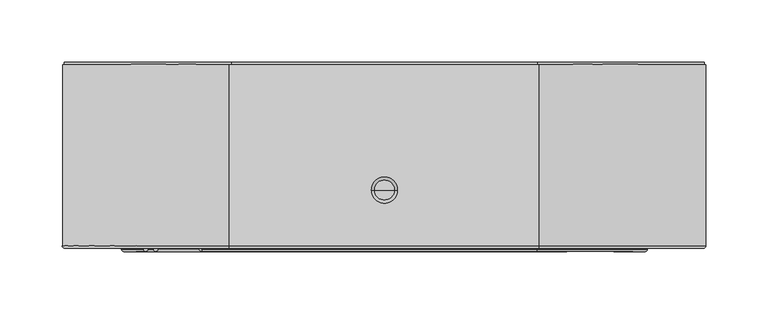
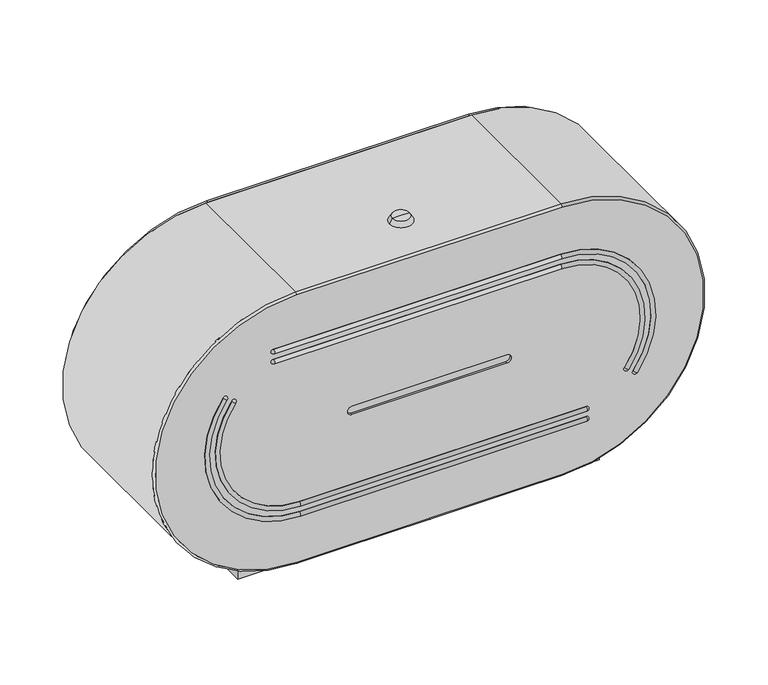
"""IFC4 building model written with IfcOpenShell, lengths in millimetres: proxy geometry, Toilet Roll Dispenser_Metlam_Double_Cabinet_Rounded : 520w x 150d x 280h (ML841DBL)."""

from ifc_helpers import new_model, si_unit, point, frame, origin, place, context, project, spatial, polyline, circle_curve, ellipse_curve, trimmed, source, transform, mapped, element, save
from ifc_brep_helpers import plane_surface, cylinder_surface, revolved_surface, advanced_brep


def specialty_equipment_6cb7c434(model_context):
    return source(origin(), model_context, "Body", "AdvancedBrep", [
        advanced_brep(
        [(-170.0, -132.0, 605.0), (170.0, -132.0, 605.0), (170.0, -2.0, 605.0), (168.0, -2.0, 605.0), (168.0, -130.0, 605.0), (-168.0, -130.0, 605.0), (-168.0, -2.0, 605.0), (-170.0, -2.0, 605.0), (-170.0, 0.0, 585.0), (170.0, 0.0, 585.0), (170.0, -132.0, 585.0), (-170.0, -132.0, 585.0), (168.0, -130.0, 585.0), (168.0, -2.0, 585.0), (-168.0, -2.0, 585.0), (-168.0, -130.0, 585.0), (-170.0, -2.0, 603.4067736), (-170.0, 0.0, 603.4067736), (170.0, 0.0, 603.4399467), (170.0, -2.0, 603.4399467), (-123.1048507, 0.0, 865.0), (123.015397, 0.0, 865.0), (123.015397, -2.0, 865.0), (-123.1048507, -2.0, 865.0)],
        [
            (0, 1),
            (1, 2),
            (2, 3),
            (3, 4),
            (4, 5),
            (5, 6),
            (6, 7),
            (7, 0),
            (8, 9),
            (9, 10),
            (10, 11),
            (11, 8),
            (12, 13),
            (13, 14),
            (14, 15),
            (15, 12),
            (11, 0),
            (7, 16),
            (16, 17),
            (17, 8),
            (10, 1),
            (9, 18),
            (18, 19),
            (19, 2),
            (17, 20, circle_curve(frame((-123.1048507, 0.0, 730.0), z_axis=(0.0, 1.0, 0.0), x_axis=(1.0, 0.0, 0.0)), 135.0)),
            (20, 21),
            (21, 18, circle_curve(frame((123.015397, 0.0, 730.0), z_axis=(0.0, 1.0, 0.0), x_axis=(1.0, 0.0, 0.0)), 135.0)),
            (4, 12),
            (15, 5),
            (14, 6),
            (13, 3),
            (19, 22, circle_curve(frame((123.015397, -2.0, 730.0), z_axis=(0.0, -1.0, 0.0), x_axis=(1.0, 0.0, 0.0)), 135.0)),
            (22, 23),
            (23, 16, circle_curve(frame((-123.1048507, -2.0, 730.0), z_axis=(0.0, -1.0, 0.0), x_axis=(1.0, 0.0, 0.0)), 135.0)),
            (22, 21),
            (20, 23),
        ],
        [
            plane_surface(frame((-170.0, -132.0, 605.0), z_axis=(0.0, 0.0, 1.0), x_axis=(0.0, -1.0, 0.0))),
            plane_surface(frame((-170.0, -132.0, 585.0), z_axis=(0.0, 0.0, -1.0), x_axis=(0.0, 1.0, 0.0))),
            plane_surface(frame((-170.0, 0.0, 605.0), z_axis=(-1.0, 0.0, 0.0), x_axis=(0.0, 0.0, -1.0))),
            plane_surface(frame((-170.0, -132.0, 605.0), z_axis=(0.0, -1.0, 0.0), x_axis=(0.0, 0.0, -1.0))),
            plane_surface(frame((170.0, -132.0, 605.0), z_axis=(1.0, 0.0, 0.0), x_axis=(0.0, 0.0, -1.0))),
            plane_surface(frame((170.0, 0.0, 605.0), z_axis=(0.0, 1.0, 0.0), x_axis=(0.0, 0.0, -1.0))),
            plane_surface(frame((168.0, -130.0, 605.0), z_axis=(0.0, 1.0, 0.0), x_axis=(0.0, 0.0, -1.0))),
            plane_surface(frame((-168.0, -130.0, 605.0), z_axis=(1.0, 0.0, 0.0), x_axis=(0.0, 0.0, -1.0))),
            plane_surface(frame((-168.0, -2.0, 605.0), z_axis=(0.0, -1.0, 0.0), x_axis=(0.0, 0.0, -1.0))),
            plane_surface(frame((168.0, -2.0, 605.0), z_axis=(-1.0, 0.0, 0.0), x_axis=(0.0, 0.0, -1.0))),
            plane_surface(frame((123.015397, -2.0, 865.0), z_axis=(0.0, 0.0, 1.0), x_axis=(0.0, 1.0, 0.0))),
            cylinder_surface(frame((-123.1048507, 0.0, 730.0), z_axis=(0.0, -1.0, 0.0), x_axis=(1.0, 0.0, 0.0)), 135.0),
            cylinder_surface(frame((123.015397, 0.0, 730.0), z_axis=(0.0, -1.0, 0.0), x_axis=(1.0, 0.0, 0.0)), 135.0),
        ],
        [
            (0, [[1, 2, 3, 4, 5, 6, 7, 8]]),
            (1, [[9, 10, 11, 12], [13, 14, 15, 16]]),
            (2, [[-12, 17, -8, 18, 19, 20]]),
            (3, [[-1, -17, -11, 21]]),
            (4, [[-10, 22, 23, 24, -2, -21]]),
            (5, [[-9, -20, 25, 26, 27, -22]]),
            (6, [[-5, 28, -16, 29]]),
            (7, [[30, -6, -29, -15]]),
            (8, [[-14, 31, -3, -24, 32, 33, 34, -18, -7, -30]]),
            (9, [[-4, -31, -13, -28]]),
            (10, [[-33, 35, -26, 36]]),
            (11, [[-36, -25, -19, -34]]),
            (12, [[-35, -32, -23, -27]]),
        ],
    ),
        advanced_brep(
        [(-125.0, -2.0, 595.0), (-125.0, -2.0, 865.0), (125.0, -2.0, 865.0), (125.0, -2.0, 595.0), (110.0, -2.0, 595.0), (110.0, -2.0, 597.0), (125.0, -2.0, 597.0), (125.0, -2.0, 863.0), (-125.0, -2.0, 863.0), (-125.0, -2.0, 597.0), (-110.0, -2.0, 597.0), (-110.0, -2.0, 595.0), (125.0, -148.0, 595.0), (0.7534227, -148.0, 595.0), (-125.0, -148.0, 595.0), (-110.0, -130.0, 595.0), (110.0, -130.0, 595.0), (-110.0, -130.0, 597.0), (110.0, -130.0, 597.0), (-125.0, -148.0, 597.0), (-1.8409431, -148.0, 597.0), (125.0, -148.0, 597.0), (-125.0, -148.0, 863.0), (125.0, -148.0, 863.0), (125.0, -148.0, 865.0), (-125.0, -148.0, 865.0), (0.7534227, -150.0, 597.0), (125.0, -150.0, 597.0), (125.0, -150.0, 863.0), (-125.0, -150.0, 863.0), (-125.0, -150.0, 597.0), (-1.8409431, -150.0, 597.0), (72.9688148, -150.0, 734.0), (72.9688148, -150.0, 726.0), (-73.0167453, -150.0, 726.0), (-73.0167453, -150.0, 734.0), (72.9688148, -148.0, 734.0), (-73.0167453, -148.0, 734.0), (-73.0167453, -148.0, 726.0), (72.9688148, -148.0, 726.0)],
        [
            (0, 1, circle_curve(frame((-125.0, -2.0, 730.0), z_axis=(0.0, 1.0, 0.0), x_axis=(1.0, 0.0, 0.0)), 135.0)),
            (1, 2),
            (2, 3, circle_curve(frame((125.0, -2.0, 730.0), z_axis=(0.0, 1.0, 0.0), x_axis=(1.0, 0.0, 0.0)), 135.0)),
            (3, 4),
            (4, 5),
            (5, 6),
            (6, 7, circle_curve(frame((125.0, -2.0, 730.0), z_axis=(0.0, -1.0, 0.0), x_axis=(1.0, 0.0, 0.0)), 133.0)),
            (7, 8),
            (8, 9, circle_curve(frame((-125.0, -2.0, 730.0), z_axis=(0.0, -1.0, 0.0), x_axis=(1.0, 0.0, 0.0)), 133.0)),
            (9, 10),
            (10, 11),
            (11, 0),
            (3, 12),
            (12, 13),
            (13, 14),
            (14, 0),
            (11, 15),
            (15, 16),
            (16, 4),
            (10, 17),
            (17, 15),
            (5, 18),
            (18, 17),
            (9, 19),
            (19, 20),
            (20, 21),
            (21, 6),
            (8, 22),
            (22, 19, circle_curve(frame((-125.0, -148.0, 730.0), z_axis=(0.0, -1.0, 0.0), x_axis=(1.0, 0.0, 0.0)), 133.0)),
            (7, 23),
            (23, 22),
            (21, 23, circle_curve(frame((125.0, -148.0, 730.0), z_axis=(0.0, -1.0, 0.0), x_axis=(1.0, 0.0, 0.0)), 133.0)),
            (16, 18),
            (2, 24),
            (24, 12, circle_curve(frame((125.0, -148.0, 730.0), z_axis=(0.0, 1.0, 0.0), x_axis=(1.0, 0.0, 0.0)), 135.0)),
            (1, 25),
            (25, 24),
            (14, 25, circle_curve(frame((-125.0, -148.0, 730.0), z_axis=(0.0, 1.0, 0.0), x_axis=(1.0, 0.0, 0.0)), 135.0)),
            (26, 27),
            (27, 28, circle_curve(frame((125.0, -150.0, 730.0), z_axis=(0.0, -1.0, 0.0), x_axis=(0.0, 0.0, -1.0)), 133.0)),
            (28, 29),
            (29, 30, circle_curve(frame((-125.0, -150.0, 730.0), z_axis=(0.0, -1.0, 0.0), x_axis=(0.0, 0.0, 1.0)), 133.0)),
            (30, 31),
            (31, 26),
            (32, 33, circle_curve(frame((72.9688148, -150.0, 730.0), z_axis=(0.0, 1.0, 0.0), x_axis=(1.0, 0.0, 0.0)), 4.0)),
            (33, 34),
            (34, 35, circle_curve(frame((-73.0167453, -150.0, 730.0), z_axis=(0.0, 1.0, 0.0), x_axis=(1.0, 0.0, 0.0)), 4.0)),
            (35, 32),
            (36, 37),
            (37, 38, circle_curve(frame((-73.0167453, -148.0, 730.0), z_axis=(0.0, -1.0, 0.0), x_axis=(1.0, 0.0, 0.0)), 4.0)),
            (38, 39),
            (39, 36, circle_curve(frame((72.9688148, -148.0, 730.0), z_axis=(0.0, -1.0, 0.0), x_axis=(1.0, 0.0, 0.0)), 4.0)),
            (32, 36),
            (39, 33),
            (38, 34),
            (37, 35),
            (26, 13, circle_curve(frame((0.7534227, -148.0, 597.0), z_axis=(1.0, 0.0, 0.0), x_axis=(0.0, 0.0, 1.0)), 2.0)),
            (12, 27, circle_curve(frame((125.0, -148.0, 597.0), z_axis=(-1.0, 0.0, 0.0), x_axis=(0.0, 0.0, 1.0)), 2.0)),
            (24, 28, circle_curve(frame((125.0, -148.0, 863.0), z_axis=(1.0, 0.0, 0.0), x_axis=(0.0, 0.0, -1.0)), 2.0)),
            (25, 29, circle_curve(frame((-125.0, -148.0, 863.0), z_axis=(1.0, 0.0, 0.0), x_axis=(0.0, 0.0, -1.0)), 2.0)),
            (14, 30, circle_curve(frame((-125.0, -148.0, 597.0), z_axis=(-1.0, 0.0, 0.0), x_axis=(0.0, 0.0, 1.0)), 2.0)),
        ],
        [
            plane_surface(frame((-123.1048507, -2.0, 595.0), z_axis=(0.0, 1.0, 0.0), x_axis=(-1.0, 0.0, 0.0))),
            plane_surface(frame((-125.0, -148.0, 595.0), z_axis=(0.0, 0.0, -1.0), x_axis=(0.0, 1.0, 0.0))),
            plane_surface(frame((-110.0, -148.0, 595.0), z_axis=(1.0, 0.0, 0.0), x_axis=(0.0, 1.0, 0.0))),
            plane_surface(frame((-110.0, -148.0, 597.0), z_axis=(0.0, 0.0, 1.0), x_axis=(0.0, 1.0, 0.0))),
            revolved_surface(polyline([(8.0, -2.0, 730.0), (8.0, -148.0, 730.0)]), (-125.0, -2.0, 730.0), (0.0, 1.0, 0.0)),
            plane_surface(frame((-125.0, -148.0, 863.0), z_axis=(0.0, 0.0, -1.0), x_axis=(0.0, 1.0, 0.0))),
            revolved_surface(polyline([(258.0, -2.0, 730.0), (258.0, -148.0, 730.0)]), (125.0, -2.0, 730.0), (0.0, 1.0, 0.0)),
            plane_surface(frame((110.0, -148.0, 597.0), z_axis=(-1.0, 0.0, 0.0), x_axis=(0.0, 1.0, 0.0))),
            cylinder_surface(frame((125.0, -2.0, 730.0), z_axis=(0.0, -1.0, 0.0), x_axis=(1.0, 0.0, 0.0)), 135.0),
            plane_surface(frame((125.0, -148.0, 865.0), z_axis=(0.0, 0.0, 1.0), x_axis=(0.0, 1.0, 0.0))),
            cylinder_surface(frame((-125.0, -2.0, 730.0), z_axis=(0.0, -1.0, 0.0), x_axis=(1.0, 0.0, 0.0)), 135.0),
            plane_surface(frame((-110.0, -130.0, 595.0), z_axis=(0.0, 1.0, 0.0), x_axis=(0.0, 0.0, 1.0))),
            plane_surface(frame((8.0, -150.0, 730.0), z_axis=(0.0, -1.0, 0.0), x_axis=(0.0, 0.0, 1.0))),
            plane_surface(frame((8.0, -148.0, 730.0), z_axis=(0.0, 1.0, 0.0), x_axis=(0.0, 0.0, -1.0))),
            revolved_surface(polyline([(76.9688148, -148.0, 730.0), (76.9688148, -150.0, 730.0)]), (72.9688148, -26.179526, 730.0), (0.0, 1.0, 0.0)),
            plane_surface(frame((72.9688148, -150.0, 726.0), z_axis=(0.0, 0.0, 1.0), x_axis=(0.0, 1.0, 0.0))),
            revolved_surface(polyline([(-69.0167453, -148.0, 730.0), (-69.0167453, -150.0, 730.0)]), (-73.0167453, -26.179526, 730.0), (0.0, 1.0, 0.0)),
            plane_surface(frame((-73.0167453, -150.0, 734.0), z_axis=(0.0, 0.0, -1.0), x_axis=(0.0, 1.0, 0.0))),
            cylinder_surface(frame((0.7534227, -148.0, 597.0), z_axis=(-1.0, 0.0, 0.0), x_axis=(0.0, 0.0, 1.0)), 2.0),
            revolved_surface(trimmed(ellipse_curve(frame((125.0, -148.0, 597.0), z_axis=(-1.0, 0.0, 0.0), x_axis=(0.0, 0.0, 1.0)), 2.0, 2.0), [point((125.0, -148.0, 595.0))], [point((125.0, -150.0, 597.0))], True, "CARTESIAN"), (125.0, -12.0, 730.0), (0.0, -1.0, 0.0)),
            cylinder_surface(frame((125.0, -148.0, 863.0), z_axis=(1.0, 0.0, 0.0), x_axis=(0.0, 0.0, -1.0)), 2.0),
            revolved_surface(trimmed(ellipse_curve(frame((-125.0, -148.0, 863.0), z_axis=(1.0, 0.0, 0.0), x_axis=(0.0, 0.0, -1.0)), 2.0, 2.0), [point((-125.0, -148.0, 865.0))], [point((-125.0, -150.0, 863.0))], True, "CARTESIAN"), (-125.0, -12.0, 730.0), (0.0, -1.0, 0.0)),
            cylinder_surface(frame((-125.0, -148.0, 597.0), z_axis=(-1.0, 0.0, 0.0), x_axis=(0.0, 0.0, 1.0)), 2.0),
        ],
        [
            (0, [[1, 2, 3, 4, 5, 6, 7, 8, 9, 10, 11, 12]]),
            (1, [[-4, 13, 14, 15, 16, -12, 17, 18, 19]]),
            (2, [[-11, 20, 21, -17]]),
            (3, [[-6, 22, 23, -20, -10, 24, 25, 26, 27]]),
            (4, [[-9, 28, 29, -24]]),
            (5, [[-8, 30, 31, -28]]),
            (6, [[-7, -27, 32, -30]]),
            (7, [[-5, -19, 33, -22]]),
            (8, [[-3, 34, 35, -13]]),
            (9, [[-2, 36, 37, -34]]),
            (10, [[-1, -16, 38, -36]]),
            (11, [[-23, -33, -18, -21]]),
            (12, [[39, 40, 41, 42, 43, 44], [45, 46, 47, 48]]),
            (13, [[-25, -29, -31, -32, -26], [49, 50, 51, 52]]),
            (14, [[-45, 53, -52, 54]]),
            (15, [[-46, -54, -51, 55]]),
            (16, [[-47, -55, -50, 56]]),
            (17, [[-48, -56, -49, -53]]),
            (18, [[57, -14, 58, -39]]),
            (19, [[-58, -35, 59, -40]]),
            (20, [[-59, -37, 60, -41]]),
            (21, [[-60, -38, 61, -42]]),
            (22, [[-57, -44, -43, -61, -15]]),
        ],
    ),
        advanced_brep(
        [(8.0, -103.25, 870.0), (-8.0, -103.25, 870.0), (0.0, -103.25, 870.0), (11.0, -103.25, 865.0), (-11.0, -103.25, 865.0), (0.0, -103.25, 865.0)],
        [
            (0, 1, circle_curve(frame((0.0, -103.25, 870.0), z_axis=(0.0, 0.0, 1.0), x_axis=(-1.0, 0.0, 0.0)), 8.0)),
            (1, 2),
            (2, 0),
            (1, 0, circle_curve(frame((0.0, -103.25, 870.0), z_axis=(0.0, 0.0, 1.0), x_axis=(-1.0, 0.0, 0.0)), 8.0)),
            (3, 4, circle_curve(frame((0.0, -103.25, 865.0), z_axis=(0.0, 0.0, 1.0), x_axis=(-1.0, 0.0, 0.0)), 11.0)),
            (4, 1),
            (0, 3),
            (4, 3, circle_curve(frame((0.0, -103.25, 865.0), z_axis=(0.0, 0.0, 1.0), x_axis=(-1.0, 0.0, 0.0)), 11.0)),
            (5, 4),
            (3, 5),
        ],
        [
            plane_surface(frame((0.0, -103.25, 870.0), z_axis=(0.0, 0.0, 1.0), x_axis=(-1.0, 0.0, 0.0))),
            revolved_surface(polyline([(-8.0, -103.25, 870.0), (-11.0, -103.25, 865.0)]), (0.0, -103.25, 890.068892), (0.0, 0.0, -1.0)),
            plane_surface(frame((0.0, -103.25, 865.0), z_axis=(0.0, 0.0, -1.0), x_axis=(-1.0, 0.0, 0.0))),
        ],
        [
            (0, [[1, 2, 3]]),
            (0, [[4, -3, -2]]),
            (1, [[5, 6, -1, 7]]),
            (1, [[8, -7, -4, -6]]),
            (2, [[9, -5, 10]]),
            (2, [[-10, -8, -9]]),
        ],
    ),
        advanced_brep(
        [(-123.1048507, -150.7841792, 643.0), (-194.6568475, -150.7841792, 784.9274197), (-194.6568475, -150.0, 784.9274197), (-123.1048507, -150.0, 643.0), (-123.1048507, -150.7841792, 647.0), (-191.4410274, -150.7841792, 782.5486593), (-123.1048507, -150.0, 647.0), (-191.4410274, -150.0, 782.5486593), (-194.1905039, -150.0, 785.5578646), (-190.9746838, -150.0, 783.1791041), (147.6793285, -150.0, 647.0), (147.6793285, -150.0, 643.0), (146.8951493, -150.7841792, 643.0), (146.8951493, -150.7841792, 647.0)],
        [
            (0, 1, circle_curve(frame((-123.1048507, -150.7841792, 732.0), z_axis=(0.0, 1.0, 0.0), x_axis=(-0.8039550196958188, 0.0, 0.5946901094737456)), 89.0)),
            (1, 2),
            (2, 3, circle_curve(frame((-123.1048507, -150.0, 732.0), z_axis=(0.0, -1.0, 0.0), x_axis=(-0.8039550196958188, 0.0, 0.5946901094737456)), 89.0)),
            (3, 0),
            (0, 4, circle_curve(frame((-123.1048507, -150.7841792, 645.0), z_axis=(-1.0, 0.0, 0.0), x_axis=(0.0, 0.0, 1.0)), 2.0)),
            (4, 5, circle_curve(frame((-123.1048507, -150.7841792, 732.0), z_axis=(0.0, 1.0, 0.0), x_axis=(-0.8039550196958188, 0.0, 0.5946901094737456)), 85.0)),
            (5, 1, circle_curve(frame((-193.0489375, -150.7841792, 783.7380395), z_axis=(-0.5946901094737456, 0.0, -0.8039550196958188), x_axis=(0.8039550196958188, 0.0, -0.5946901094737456)), 2.0)),
            (4, 6),
            (6, 7, circle_curve(frame((-123.1048507, -150.0, 732.0), z_axis=(0.0, 1.0, 0.0), x_axis=(-0.8039550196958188, 0.0, 0.5946901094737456)), 85.0)),
            (7, 5),
            (2, 8),
            (8, 9, circle_curve(frame((-192.5825938, -150.0, 784.3684843), z_axis=(0.0, 1.0, 0.0), x_axis=(-0.8039550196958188, 0.0, 0.5946901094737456)), 2.0)),
            (9, 7),
            (6, 10),
            (10, 11, circle_curve(frame((147.6793285, -150.0, 645.0), z_axis=(0.0, 1.0, 0.0), x_axis=(1.0, 0.0, 0.0)), 2.0)),
            (11, 3),
            (11, 12, circle_curve(frame((146.8951493, -150.0, 643.0), z_axis=(0.0, 0.0, -1.0), x_axis=(0.0, -1.0, 0.0)), 0.7841792)),
            (12, 0),
            (12, 13, circle_curve(frame((146.8951493, -150.7841792, 645.0), z_axis=(-1.0, 0.0, 0.0), x_axis=(0.0, 0.0, 1.0)), 2.0)),
            (13, 4),
            (13, 10, circle_curve(frame((146.8951493, -150.0, 647.0), z_axis=(0.0, 0.0, 1.0), x_axis=(0.0, -1.0, 0.0)), 0.7841792)),
            (8, 1, circle_curve(frame((-194.6568475, -150.0, 784.9274197), z_axis=(0.8039550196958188, 0.0, -0.5946901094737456), x_axis=(0.0, -1.0, 0.0)), 0.7841792)),
            (5, 9, circle_curve(frame((-191.4410274, -150.0, 782.5486593), z_axis=(-0.8039550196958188, 0.0, 0.5946901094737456), x_axis=(0.0, -1.0, 0.0)), 0.7841792)),
        ],
        [
            cylinder_surface(frame((-123.1048507, -12.0, 732.0), z_axis=(0.0, -1.0, 0.0), x_axis=(-0.8039550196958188, 0.0, 0.5946901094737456)), 89.0),
            revolved_surface(trimmed(ellipse_curve(frame((-193.0489375, -150.7841792, 783.7380395), z_axis=(0.5946901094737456, 0.0, 0.8039550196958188), x_axis=(0.8039550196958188, 0.0, -0.5946901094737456)), 2.0, 2.0), [point((-194.6568475, -150.7841792, 784.9274197))], [point((-191.4410274, -150.7841792, 782.5486593))], True, "CARTESIAN"), (-123.1048507, -12.0, 732.0), (0.0, -1.0, 0.0)),
            revolved_surface(polyline([(-191.4410273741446, -150.7841792, 782.5486593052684), (-191.4410273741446, -150.0, 782.5486593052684)]), (-123.1048507, -12.0, 732.0), (0.0, -1.0, 0.0)),
            plane_surface(frame((-123.1048507, -150.0, 732.0), z_axis=(0.0, 1.0, 0.0), x_axis=(-0.8039550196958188, 0.0, 0.5946901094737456))),
            plane_surface(frame((-123.1048507, -150.0, 643.0), z_axis=(0.0, 0.0, -1.0), x_axis=(1.0, 0.0, 0.0))),
            cylinder_surface(frame((-123.1048507, -150.7841792, 645.0), z_axis=(-1.0, 0.0, 0.0), x_axis=(0.0, 0.0, 1.0)), 2.0),
            plane_surface(frame((-123.1048507, -150.7841792, 647.0), z_axis=(0.0, 0.0, 1.0), x_axis=(1.0, 0.0, 0.0))),
            revolved_surface(trimmed(ellipse_curve(frame((146.8951493, -150.7841792, 645.0), z_axis=(1.0, 0.0, 0.0), x_axis=(0.0, -1.0, 0.0)), 2.0, 2.0), [point((146.8951493, -150.7841792, 647.0))], [point((146.8951493, -150.7841792, 643.0))], True, "CARTESIAN"), (146.8951493, -150.0, 778.9805186), (0.0, 0.0, -1.0)),
            revolved_surface(trimmed(ellipse_curve(frame((-193.0489375, -150.7841792, 783.7380395), z_axis=(0.5946901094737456, 0.0, 0.8039550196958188), x_axis=(-0.8039550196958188, 0.0, 0.5946901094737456)), 2.0, 2.0), [point((-194.6568475, -150.7841792, 784.9274197))], [point((-191.4410274, -150.7841792, 782.5486593))], True, "CARTESIAN"), (-194.65979, -150.0, 784.9295963), (0.8039550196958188, 0.0, -0.5946901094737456)),
            plane_surface(frame((-194.6568475, -150.0, 784.9274197), z_axis=(-0.8039550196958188, 0.0, 0.5946901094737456), x_axis=(0.0, -1.0, 0.0))),
            plane_surface(frame((-191.4410274, -150.0, 782.5486593), z_axis=(0.8039550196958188, 0.0, -0.5946901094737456), x_axis=(0.0, -1.0, 0.0))),
        ],
        [
            (0, [[1, 2, 3, 4]]),
            (1, [[-1, 5, 6, 7]]),
            (2, [[-6, 8, 9, 10]]),
            (3, [[-3, 11, 12, 13, -9, 14, 15, 16]]),
            (4, [[-4, -16, 17, 18]]),
            (5, [[-5, -18, 19, 20]]),
            (6, [[-8, -20, 21, -14]]),
            (7, [[-15, -21, -19, -17]]),
            (8, [[-12, 22, -7, 23]]),
            (9, [[-11, -2, -22]]),
            (10, [[-13, -23, -10]]),
        ],
    ),
        advanced_brep(
        [(-123.1048507, -150.0, 653.0), (-186.6172973, -150.0, 778.9805186), (-186.1509537, -150.0, 779.6109635), (-182.9351336, -150.0, 777.232203), (-183.4014772, -150.0, 776.6017582), (-123.1048507, -150.0, 657.0), (147.6793285, -150.0, 657.0), (147.6793285, -150.0, 653.0), (-123.1048507, -150.7841792, 653.0), (-186.6172973, -150.7841792, 778.9805186), (-123.1048507, -150.7841792, 657.0), (-183.4014772, -150.7841792, 776.6017582), (146.8951493, -150.7841792, 653.0), (146.8951493, -150.7841792, 657.0)],
        [
            (0, 1, circle_curve(frame((-123.1048507, -150.0, 732.0), z_axis=(0.0, 1.0, 0.0), x_axis=(-0.8039550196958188, 0.0, 0.5946901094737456)), 79.0)),
            (1, 2),
            (2, 3, circle_curve(frame((-184.5430436, -150.0, 778.4215832), z_axis=(0.0, 1.0, 0.0), x_axis=(-0.8039550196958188, 0.0, 0.5946901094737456)), 2.0)),
            (3, 4),
            (4, 5, circle_curve(frame((-123.1048507, -150.0, 732.0), z_axis=(0.0, -1.0, 0.0), x_axis=(-0.8039550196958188, 0.0, 0.5946901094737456)), 75.0)),
            (5, 6),
            (6, 7, circle_curve(frame((147.6793285, -150.0, 655.0), z_axis=(0.0, 1.0, 0.0), x_axis=(1.0, 0.0, 0.0)), 2.0)),
            (7, 0),
            (8, 9, circle_curve(frame((-123.1048507, -150.7841792, 732.0), z_axis=(0.0, 1.0, 0.0), x_axis=(-0.8039550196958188, 0.0, 0.5946901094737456)), 79.0)),
            (9, 1),
            (0, 8),
            (8, 10, circle_curve(frame((-123.1048507, -150.7841792, 655.0), z_axis=(-1.0, 0.0, 0.0), x_axis=(0.0, 0.0, 1.0)), 2.0)),
            (10, 11, circle_curve(frame((-123.1048507, -150.7841792, 732.0), z_axis=(0.0, 1.0, 0.0), x_axis=(-0.8039550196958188, 0.0, 0.5946901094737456)), 75.0)),
            (11, 9, circle_curve(frame((-185.0093873, -150.7841792, 777.7911384), z_axis=(-0.5946901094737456, 0.0, -0.8039550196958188), x_axis=(0.8039550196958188, 0.0, -0.5946901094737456)), 2.0)),
            (10, 5),
            (4, 11),
            (7, 12, circle_curve(frame((146.8951493, -150.0, 653.0), z_axis=(0.0, 0.0, -1.0), x_axis=(0.0, -1.0, 0.0)), 0.7841792)),
            (12, 8),
            (12, 13, circle_curve(frame((146.8951493, -150.7841792, 655.0), z_axis=(-1.0, 0.0, 0.0), x_axis=(0.0, 0.0, 1.0)), 2.0)),
            (13, 10),
            (13, 6, circle_curve(frame((146.8951493, -150.0, 657.0), z_axis=(0.0, 0.0, 1.0), x_axis=(0.0, -1.0, 0.0)), 0.7841792)),
            (2, 9, circle_curve(frame((-186.6172973, -150.0, 778.9805186), z_axis=(0.8039550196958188, 0.0, -0.5946901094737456), x_axis=(0.0, -1.0, 0.0)), 0.7841792)),
            (11, 3, circle_curve(frame((-183.4014772, -150.0, 776.6017582), z_axis=(-0.8039550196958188, 0.0, 0.5946901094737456), x_axis=(0.0, -1.0, 0.0)), 0.7841792)),
        ],
        [
            plane_surface(frame((-123.1048507, -150.0, 732.0), z_axis=(0.0, 1.0, 0.0), x_axis=(-0.8039550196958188, 0.0, 0.5946901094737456))),
            cylinder_surface(frame((-123.1048507, -12.0, 732.0), z_axis=(0.0, -1.0, 0.0), x_axis=(-0.8039550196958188, 0.0, 0.5946901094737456)), 79.0),
            revolved_surface(trimmed(ellipse_curve(frame((-185.0093873, -150.7841792, 777.7911384), z_axis=(0.5946901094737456, 0.0, 0.8039550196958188), x_axis=(0.8039550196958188, 0.0, -0.5946901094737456)), 2.0, 2.0), [point((-186.6172973, -150.7841792, 778.9805186))], [point((-183.4014772, -150.7841792, 776.6017582))], True, "CARTESIAN"), (-123.1048507, -12.0, 732.0), (0.0, -1.0, 0.0)),
            revolved_surface(polyline([(-183.40147717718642, -150.7841792, 776.6017582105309), (-183.40147717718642, -150.0, 776.6017582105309)]), (-123.1048507, -12.0, 732.0), (0.0, -1.0, 0.0)),
            plane_surface(frame((-123.1048507, -150.0, 653.0), z_axis=(0.0, 0.0, -1.0), x_axis=(1.0, 0.0, 0.0))),
            cylinder_surface(frame((-123.1048507, -150.7841792, 655.0), z_axis=(-1.0, 0.0, 0.0), x_axis=(0.0, 0.0, 1.0)), 2.0),
            plane_surface(frame((-123.1048507, -150.7841792, 657.0), z_axis=(0.0, 0.0, 1.0), x_axis=(1.0, 0.0, 0.0))),
            revolved_surface(trimmed(ellipse_curve(frame((146.8951493, -150.7841792, 655.0), z_axis=(1.0, 0.0, 0.0), x_axis=(0.0, -1.0, 0.0)), 2.0, 2.0), [point((146.8951493, -150.7841792, 657.0))], [point((146.8951493, -150.7841792, 653.0))], True, "CARTESIAN"), (146.8951493, -150.0, 778.9805186), (0.0, 0.0, -1.0)),
            revolved_surface(trimmed(ellipse_curve(frame((-185.0093873, -150.7841792, 777.7911384), z_axis=(0.5946901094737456, 0.0, 0.8039550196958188), x_axis=(-0.8039550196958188, 0.0, 0.5946901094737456)), 2.0, 2.0), [point((-186.6172973, -150.7841792, 778.9805186))], [point((-183.4014772, -150.7841792, 776.6017582))], True, "CARTESIAN"), (-194.65979, -150.0, 784.9295963), (0.8039550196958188, 0.0, -0.5946901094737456)),
            plane_surface(frame((-186.6172973, -150.0, 778.9805186), z_axis=(-0.8039550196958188, 0.0, 0.5946901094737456), x_axis=(0.0, -1.0, 0.0))),
            plane_surface(frame((-183.4014772, -150.0, 776.6017582), z_axis=(0.8039550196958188, 0.0, -0.5946901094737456), x_axis=(0.0, -1.0, 0.0))),
        ],
        [
            (0, [[1, 2, 3, 4, 5, 6, 7, 8]]),
            (1, [[9, 10, -1, 11]]),
            (2, [[-9, 12, 13, 14]]),
            (3, [[-13, 15, -5, 16]]),
            (4, [[-11, -8, 17, 18]]),
            (5, [[-12, -18, 19, 20]]),
            (6, [[-15, -20, 21, -6]]),
            (7, [[-7, -21, -19, -17]]),
            (8, [[-3, 22, -14, 23]]),
            (9, [[-2, -10, -22]]),
            (10, [[-4, -23, -16]]),
        ],
    ),
        advanced_brep(
        [(123.1048507, -150.7841792, 817.0), (194.6568475, -150.7841792, 675.0725803), (194.6568475, -150.0, 675.0725803), (123.1048507, -150.0, 817.0), (123.1048507, -150.7841792, 813.0), (191.4410274, -150.7841792, 677.4513407), (123.1048507, -150.0, 813.0), (191.4410274, -150.0, 677.4513407), (194.1905039, -150.0, 674.4421354), (190.9746838, -150.0, 676.8208959), (-147.6793285, -150.0, 813.0), (-147.6793285, -150.0, 817.0), (-146.8951493, -150.7841792, 817.0), (-146.8951493, -150.7841792, 813.0)],
        [
            (0, 1, circle_curve(frame((123.1048507, -150.7841792, 728.0), z_axis=(0.0, 1.0, 0.0), x_axis=(0.8039550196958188, 0.0, -0.5946901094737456)), 89.0)),
            (1, 2),
            (2, 3, circle_curve(frame((123.1048507, -150.0, 728.0), z_axis=(0.0, -1.0, 0.0), x_axis=(0.8039550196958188, 0.0, -0.5946901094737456)), 89.0)),
            (3, 0),
            (0, 4, circle_curve(frame((123.1048507, -150.7841792, 815.0), z_axis=(1.0, 0.0, 0.0), x_axis=(0.0, 0.0, -1.0)), 2.0)),
            (4, 5, circle_curve(frame((123.1048507, -150.7841792, 728.0), z_axis=(0.0, 1.0, 0.0), x_axis=(0.8039550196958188, 0.0, -0.5946901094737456)), 85.0)),
            (5, 1, circle_curve(frame((193.0489375, -150.7841792, 676.2619605), z_axis=(0.5946901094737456, 0.0, 0.8039550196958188), x_axis=(-0.8039550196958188, 0.0, 0.5946901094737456)), 2.0)),
            (4, 6),
            (6, 7, circle_curve(frame((123.1048507, -150.0, 728.0), z_axis=(0.0, 1.0, 0.0), x_axis=(0.8039550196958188, 0.0, -0.5946901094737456)), 85.0)),
            (7, 5),
            (2, 8),
            (8, 9, circle_curve(frame((192.5825938, -150.0, 675.6315157), z_axis=(0.0, 1.0, 0.0), x_axis=(0.803955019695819, 0.0, -0.5946901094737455)), 2.0)),
            (9, 7),
            (6, 10),
            (10, 11, circle_curve(frame((-147.6793285, -150.0, 815.0), z_axis=(0.0, 1.0, 0.0), x_axis=(-1.0, 0.0, 0.0)), 2.0)),
            (11, 3),
            (11, 12, circle_curve(frame((-146.8951493, -150.0, 817.0), z_axis=(0.0, 0.0, 1.0), x_axis=(0.0, -1.0, 0.0)), 0.7841792)),
            (12, 0),
            (12, 13, circle_curve(frame((-146.8951493, -150.7841792, 815.0), z_axis=(1.0, 0.0, 0.0), x_axis=(0.0, 0.0, -1.0)), 2.0)),
            (13, 4),
            (13, 10, circle_curve(frame((-146.8951493, -150.0, 813.0), z_axis=(0.0, 0.0, -1.0), x_axis=(0.0, -1.0, 0.0)), 0.7841792)),
            (8, 1, circle_curve(frame((194.6568475, -150.0, 675.0725803), z_axis=(-0.803955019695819, 0.0, 0.5946901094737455), x_axis=(0.0, -1.0, 0.0)), 0.7841792)),
            (5, 9, circle_curve(frame((191.4410274, -150.0, 677.4513407), z_axis=(0.803955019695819, 0.0, -0.5946901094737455), x_axis=(0.0, -1.0, 0.0)), 0.7841792)),
        ],
        [
            cylinder_surface(frame((123.1048507, -12.0, 728.0), z_axis=(0.0, -1.0, 0.0), x_axis=(0.8039550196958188, 0.0, -0.5946901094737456)), 89.0),
            revolved_surface(trimmed(ellipse_curve(frame((193.0489375, -150.7841792, 676.2619605), z_axis=(-0.5946901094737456, 0.0, -0.8039550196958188), x_axis=(-0.8039550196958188, 0.0, 0.5946901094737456)), 2.0, 2.0), [point((194.6568475, -150.7841792, 675.0725803))], [point((191.4410274, -150.7841792, 677.4513407))], True, "CARTESIAN"), (123.1048507, -12.0, 728.0), (0.0, -1.0, 0.0)),
            revolved_surface(polyline([(191.4410273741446, -150.7841792, 677.4513406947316), (191.4410273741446, -150.0, 677.4513406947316)]), (123.1048507, -12.0, 728.0), (0.0, -1.0, 0.0)),
            plane_surface(frame((123.1048507, -150.0, 728.0), z_axis=(0.0, 1.0, 0.0), x_axis=(0.8039550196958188, 0.0, -0.5946901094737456))),
            plane_surface(frame((123.1048507, -150.0, 817.0), z_axis=(0.0, 0.0, 1.0), x_axis=(-1.0, 0.0, 0.0))),
            cylinder_surface(frame((123.1048507, -150.7841792, 815.0), z_axis=(1.0, 0.0, 0.0), x_axis=(0.0, 0.0, -1.0)), 2.0),
            plane_surface(frame((123.1048507, -150.7841792, 813.0), z_axis=(0.0, 0.0, -1.0), x_axis=(-1.0, 0.0, 0.0))),
            revolved_surface(trimmed(ellipse_curve(frame((-146.8951493, -150.7841792, 815.0), z_axis=(-1.0, 0.0, 0.0), x_axis=(0.0, -1.0, 0.0)), 2.0, 2.0), [point((-146.8951493, -150.7841792, 813.0))], [point((-146.8951493, -150.7841792, 817.0))], True, "CARTESIAN"), (-146.8951493, -150.0, 675.0725803), (0.0, 0.0, 1.0)),
            revolved_surface(trimmed(ellipse_curve(frame((193.0489375, -150.7841792, 676.2619605), z_axis=(-0.594690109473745, 0.0, -0.8039550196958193), x_axis=(0.8039550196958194, 0.0, -0.5946901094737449)), 2.0, 2.0), [point((194.6568475, -150.7841792, 675.0725803))], [point((191.4410274, -150.7841792, 677.4513407))], True, "CARTESIAN"), (194.6566394, -150.0, 675.0727342), (-0.803955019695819, 0.0, 0.5946901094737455)),
            plane_surface(frame((194.6568475, -150.0, 675.0725803), z_axis=(0.8039550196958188, 0.0, -0.5946901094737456), x_axis=(0.0, -1.0, 0.0))),
            plane_surface(frame((191.4410274, -150.0, 677.4513407), z_axis=(-0.8039550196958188, 0.0, 0.5946901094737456), x_axis=(0.0, -1.0, 0.0))),
        ],
        [
            (0, [[1, 2, 3, 4]]),
            (1, [[-1, 5, 6, 7]]),
            (2, [[-6, 8, 9, 10]]),
            (3, [[-3, 11, 12, 13, -9, 14, 15, 16]]),
            (4, [[-4, -16, 17, 18]]),
            (5, [[-5, -18, 19, 20]]),
            (6, [[-8, -20, 21, -14]]),
            (7, [[-15, -21, -19, -17]]),
            (8, [[-12, 22, -7, 23]]),
            (9, [[-11, -2, -22]]),
            (10, [[-13, -23, -10]]),
        ],
    ),
        advanced_brep(
        [(123.1048507, -150.0, 807.0), (186.6172973, -150.0, 681.0194814), (186.1509537, -150.0, 680.3890365), (182.9351336, -150.0, 682.767797), (183.4014772, -150.0, 683.3982418), (123.1048507, -150.0, 803.0), (-147.6793285, -150.0, 803.0), (-147.6793285, -150.0, 807.0), (123.1048507, -150.7841792, 807.0), (186.6172973, -150.7841792, 681.0194814), (123.1048507, -150.7841792, 803.0), (183.4014772, -150.7841792, 683.3982418), (-146.8951493, -150.7841792, 807.0), (-146.8951493, -150.7841792, 803.0)],
        [
            (0, 1, circle_curve(frame((123.1048507, -150.0, 728.0), z_axis=(0.0, 1.0, 0.0), x_axis=(0.8039550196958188, 0.0, -0.5946901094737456)), 79.0)),
            (1, 2),
            (2, 3, circle_curve(frame((184.5430436, -150.0, 681.5784168), z_axis=(0.0, 1.0, 0.0), x_axis=(0.803955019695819, 0.0, -0.5946901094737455)), 2.0)),
            (3, 4),
            (4, 5, circle_curve(frame((123.1048507, -150.0, 728.0), z_axis=(0.0, -1.0, 0.0), x_axis=(0.8039550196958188, 0.0, -0.5946901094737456)), 75.0)),
            (5, 6),
            (6, 7, circle_curve(frame((-147.6793285, -150.0, 805.0), z_axis=(0.0, 1.0, 0.0), x_axis=(-1.0, 0.0, 0.0)), 2.0)),
            (7, 0),
            (8, 9, circle_curve(frame((123.1048507, -150.7841792, 728.0), z_axis=(0.0, 1.0, 0.0), x_axis=(0.8039550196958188, 0.0, -0.5946901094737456)), 79.0)),
            (9, 1),
            (0, 8),
            (8, 10, circle_curve(frame((123.1048507, -150.7841792, 805.0), z_axis=(1.0, 0.0, 0.0), x_axis=(0.0, 0.0, -1.0)), 2.0)),
            (10, 11, circle_curve(frame((123.1048507, -150.7841792, 728.0), z_axis=(0.0, 1.0, 0.0), x_axis=(0.8039550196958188, 0.0, -0.5946901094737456)), 75.0)),
            (11, 9, circle_curve(frame((185.0093873, -150.7841792, 682.2088616), z_axis=(0.5946901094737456, 0.0, 0.8039550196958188), x_axis=(-0.8039550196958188, 0.0, 0.5946901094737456)), 2.0)),
            (10, 5),
            (4, 11),
            (7, 12, circle_curve(frame((-146.8951493, -150.0, 807.0), z_axis=(0.0, 0.0, 1.0), x_axis=(0.0, -1.0, 0.0)), 0.7841792)),
            (12, 8),
            (12, 13, circle_curve(frame((-146.8951493, -150.7841792, 805.0), z_axis=(1.0, 0.0, 0.0), x_axis=(0.0, 0.0, -1.0)), 2.0)),
            (13, 10),
            (13, 6, circle_curve(frame((-146.8951493, -150.0, 803.0), z_axis=(0.0, 0.0, -1.0), x_axis=(0.0, -1.0, 0.0)), 0.7841792)),
            (2, 9, circle_curve(frame((186.6172973, -150.0, 681.0194814), z_axis=(-0.803955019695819, 0.0, 0.5946901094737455), x_axis=(0.0, -1.0, 0.0)), 0.7841792)),
            (11, 3, circle_curve(frame((183.4014772, -150.0, 683.3982418), z_axis=(0.803955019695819, 0.0, -0.5946901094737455), x_axis=(0.0, -1.0, 0.0)), 0.7841792)),
        ],
        [
            plane_surface(frame((123.1048507, -150.0, 728.0), z_axis=(0.0, 1.0, 0.0), x_axis=(0.8039550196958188, 0.0, -0.5946901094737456))),
            cylinder_surface(frame((123.1048507, -12.0, 728.0), z_axis=(0.0, -1.0, 0.0), x_axis=(0.8039550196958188, 0.0, -0.5946901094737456)), 79.0),
            revolved_surface(trimmed(ellipse_curve(frame((185.0093873, -150.7841792, 682.2088616), z_axis=(-0.5946901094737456, 0.0, -0.8039550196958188), x_axis=(-0.8039550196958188, 0.0, 0.5946901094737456)), 2.0, 2.0), [point((186.6172973, -150.7841792, 681.0194814))], [point((183.4014772, -150.7841792, 683.3982418))], True, "CARTESIAN"), (123.1048507, -12.0, 728.0), (0.0, -1.0, 0.0)),
            revolved_surface(polyline([(183.40147717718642, -150.7841792, 683.3982417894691), (183.40147717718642, -150.0, 683.3982417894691)]), (123.1048507, -12.0, 728.0), (0.0, -1.0, 0.0)),
            plane_surface(frame((123.1048507, -150.0, 807.0), z_axis=(0.0, 0.0, 1.0), x_axis=(-1.0, 0.0, 0.0))),
            cylinder_surface(frame((123.1048507, -150.7841792, 805.0), z_axis=(1.0, 0.0, 0.0), x_axis=(0.0, 0.0, -1.0)), 2.0),
            plane_surface(frame((123.1048507, -150.7841792, 803.0), z_axis=(0.0, 0.0, -1.0), x_axis=(-1.0, 0.0, 0.0))),
            revolved_surface(trimmed(ellipse_curve(frame((-146.8951493, -150.7841792, 805.0), z_axis=(-1.0, 0.0, 0.0), x_axis=(0.0, -1.0, 0.0)), 2.0, 2.0), [point((-146.8951493, -150.7841792, 803.0))], [point((-146.8951493, -150.7841792, 807.0))], True, "CARTESIAN"), (-146.8951493, -150.0, 675.0725803), (0.0, 0.0, 1.0)),
            revolved_surface(trimmed(ellipse_curve(frame((185.0093873, -150.7841792, 682.2088616), z_axis=(-0.594690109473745, 0.0, -0.8039550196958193), x_axis=(0.8039550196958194, 0.0, -0.5946901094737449)), 2.0, 2.0), [point((186.6172973, -150.7841792, 681.0194814))], [point((183.4014772, -150.7841792, 683.3982418))], True, "CARTESIAN"), (194.6566394, -150.0, 675.0727342), (-0.803955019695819, 0.0, 0.5946901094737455)),
            plane_surface(frame((186.6172973, -150.0, 681.0194814), z_axis=(0.8039550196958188, 0.0, -0.5946901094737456), x_axis=(0.0, -1.0, 0.0))),
            plane_surface(frame((183.4014772, -150.0, 683.3982418), z_axis=(-0.8039550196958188, 0.0, 0.5946901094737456), x_axis=(0.0, -1.0, 0.0))),
        ],
        [
            (0, [[1, 2, 3, 4, 5, 6, 7, 8]]),
            (1, [[9, 10, -1, 11]]),
            (2, [[-9, 12, 13, 14]]),
            (3, [[-13, 15, -5, 16]]),
            (4, [[-11, -8, 17, 18]]),
            (5, [[-12, -18, 19, 20]]),
            (6, [[-15, -20, 21, -6]]),
            (7, [[-7, -21, -19, -17]]),
            (8, [[-3, 22, -14, 23]]),
            (9, [[-2, -10, -22]]),
            (10, [[-4, -23, -16]]),
        ],
    ),
    ])


if __name__ == "__main__":
    model = new_model("IFC4")
    model_context = context("Model", 3, world=origin())
    ifc_project = project(units=[si_unit("LENGTHUNIT", "METRE", prefix="MILLI")], contexts=[model_context])
    site = spatial("IfcSite", under=ifc_project)
    building = spatial("IfcBuilding", under=site)
    placement = place(None, origin())
    specialty_equipment_shape = specialty_equipment_6cb7c434(model_context)
    element("IfcBuildingElementProxy", 1, Name="Toilet Roll Dispenser_Metlam_Double_Cabinet_Rounded : 520w x 150d x 280h (ML841DBL)", ObjectType="Toilet Roll Dispenser_Metlam_Double_Cabinet_Rounded : 520w x 150d x 280h (ML841DBL)", at=placement, inside=building, context=model_context, shape_type="MappedRepresentation", body=[
        mapped(specialty_equipment_shape, transform((0.0, 0.0, 0.0), x_axis=(1.0, 0.0, 0.0), y_axis=(0.0, 1.0, 0.0), z_axis=(0.0, 0.0, 1.0))),
    ])
    save(model, "model.ifc")
